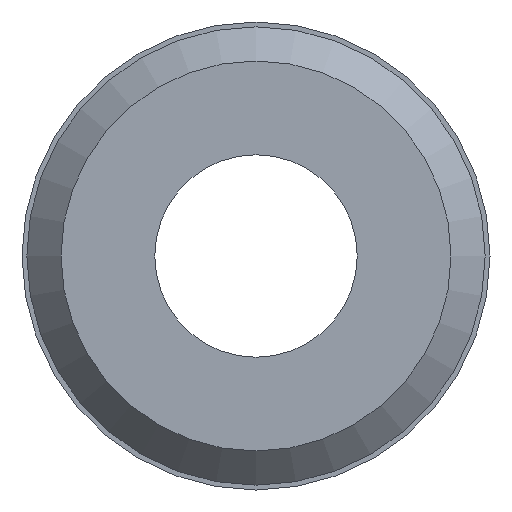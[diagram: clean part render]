
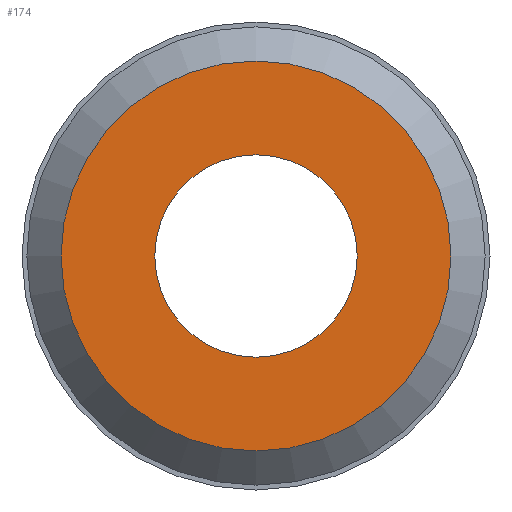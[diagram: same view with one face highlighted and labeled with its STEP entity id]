
A CAD part, front view. The second image highlights one B-rep face of the part: STEP entity #174.
In plain terms, the highlighted planar face has unit normal (0, -1, 0).
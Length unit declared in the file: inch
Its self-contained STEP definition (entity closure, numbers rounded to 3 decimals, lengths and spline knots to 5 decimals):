
#16=FACE_BOUND('',#41,.T.);
#20=PLANE('',#202);
#30=FACE_OUTER_BOUND('',#40,.T.);
#40=EDGE_LOOP('',(#133));
#41=EDGE_LOOP('',(#134,#135));
#62=CIRCLE('',#197,0.105);
#66=CIRCLE('',#203,0.0545);
#67=CIRCLE('',#204,0.0545);
#81=VERTEX_POINT('',#292);
#85=VERTEX_POINT('',#304);
#86=VERTEX_POINT('',#305);
#99=EDGE_CURVE('',#81,#81,#62,.T.);
#105=EDGE_CURVE('',#85,#86,#66,.T.);
#106=EDGE_CURVE('',#86,#85,#67,.T.);
#133=ORIENTED_EDGE('',*,*,#99,.F.);
#134=ORIENTED_EDGE('',*,*,#105,.F.);
#135=ORIENTED_EDGE('',*,*,#106,.F.);
#174=ADVANCED_FACE('',(#30,#16),#20,.T.);
#197=AXIS2_PLACEMENT_3D('',#293,#229,#230);
#202=AXIS2_PLACEMENT_3D('',#303,#241,#242);
#203=AXIS2_PLACEMENT_3D('',#306,#243,#244);
#204=AXIS2_PLACEMENT_3D('',#307,#245,#246);
#229=DIRECTION('center_axis',(0.,1.,0.));
#230=DIRECTION('ref_axis',(0.,0.,1.));
#241=DIRECTION('center_axis',(0.,-1.,0.));
#242=DIRECTION('ref_axis',(0.,0.,-1.));
#243=DIRECTION('center_axis',(0.,-1.,0.));
#244=DIRECTION('ref_axis',(1.,0.,0.));
#245=DIRECTION('center_axis',(0.,-1.,0.));
#246=DIRECTION('ref_axis',(1.,0.,0.));
#292=CARTESIAN_POINT('',(0.,0.,-0.105));
#293=CARTESIAN_POINT('Origin',(0.,0.,0.));
#303=CARTESIAN_POINT('Origin',(0.,0.,-0.0545));
#304=CARTESIAN_POINT('',(0.,0.,-0.0545));
#305=CARTESIAN_POINT('',(0.,0.,0.0545));
#306=CARTESIAN_POINT('Origin',(0.,0.,0.));
#307=CARTESIAN_POINT('Origin',(0.,0.,0.));
